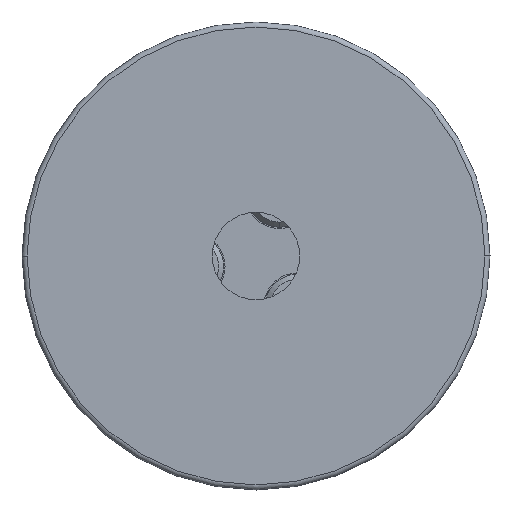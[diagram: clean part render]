
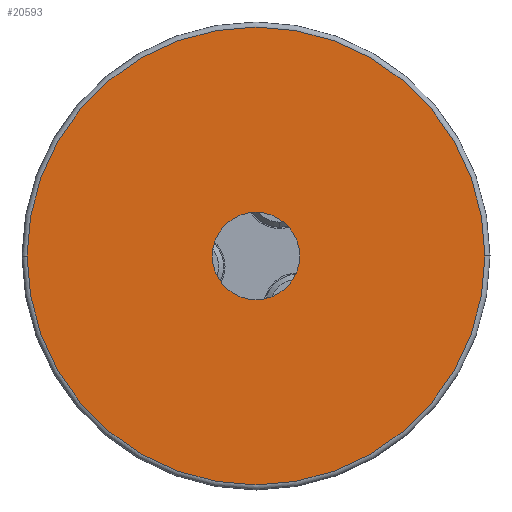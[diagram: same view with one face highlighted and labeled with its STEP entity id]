
A CAD part, front view. The second image highlights one B-rep face of the part: STEP entity #20593.
In plain terms, the highlighted planar face has unit normal (0, -1, 0).
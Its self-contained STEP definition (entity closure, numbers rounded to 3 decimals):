
#474 = VERTEX_POINT ( 'NONE', #17950 ) ;
#1518 = DIRECTION ( 'NONE',  ( -1., 0., 0. ) ) ;
#2802 = FACE_OUTER_BOUND ( 'NONE', #9730, .T. ) ;
#3155 = VERTEX_POINT ( 'NONE', #13838 ) ;
#3231 = FACE_BOUND ( 'NONE', #7847, .T. ) ;
#3757 = DIRECTION ( 'NONE',  ( 0., 1., 0. ) ) ;
#4062 = AXIS2_PLACEMENT_3D ( 'NONE', #6563, #3757, #24813 ) ;
#6117 = AXIS2_PLACEMENT_3D ( 'NONE', #17590, #22595, #30606 ) ;
#6284 = CARTESIAN_POINT ( 'NONE',  ( 12.706, -7.224, 3.715 ) ) ;
#6563 = CARTESIAN_POINT ( 'NONE',  ( -32.834, -7.224, -33.225 ) ) ;
#7847 = EDGE_LOOP ( 'NONE', ( #18759, #22388 ) ) ;
#9530 = CIRCLE ( 'NONE', #22929, 45. ) ;
#9660 = CARTESIAN_POINT ( 'NONE',  ( 12.706, -7.224, 12.315 ) ) ;
#9730 = EDGE_LOOP ( 'NONE', ( #33649, #28364 ) ) ;
#11609 = CIRCLE ( 'NONE', #16967, 45. ) ;
#12476 = DIRECTION ( 'NONE',  ( 0., -1., 0. ) ) ;
#13838 = CARTESIAN_POINT ( 'NONE',  ( -32.294, -7.224, 12.315 ) ) ;
#14035 = DIRECTION ( 'NONE',  ( -1., 0., 0. ) ) ;
#16177 = EDGE_CURVE ( 'NONE', #474, #24606, #24124, .T. ) ;
#16582 = CARTESIAN_POINT ( 'NONE',  ( 12.706, -7.224, 12.315 ) ) ;
#16754 = EDGE_CURVE ( 'NONE', #17850, #3155, #11609, .T. ) ;
#16967 = AXIS2_PLACEMENT_3D ( 'NONE', #9660, #28234, #1518 ) ;
#17590 = CARTESIAN_POINT ( 'NONE',  ( 12.706, -7.224, 12.315 ) ) ;
#17850 = VERTEX_POINT ( 'NONE', #29881 ) ;
#17950 = CARTESIAN_POINT ( 'NONE',  ( 12.706, -7.224, 20.915 ) ) ;
#18759 = ORIENTED_EDGE ( 'NONE', *, *, #25269, .F. ) ;
#19012 = EDGE_CURVE ( 'NONE', #3155, #17850, #9530, .T. ) ;
#19404 = DIRECTION ( 'NONE',  ( 0., 1., 0. ) ) ;
#19705 = PLANE ( 'NONE',  #4062 ) ;
#20593 = ADVANCED_FACE ( 'NONE', ( #3231, #2802 ), #19705, .F. ) ;
#22306 = AXIS2_PLACEMENT_3D ( 'NONE', #33926, #12476, #28505 ) ;
#22388 = ORIENTED_EDGE ( 'NONE', *, *, #16177, .F. ) ;
#22595 = DIRECTION ( 'NONE',  ( 0., -1., 0. ) ) ;
#22929 = AXIS2_PLACEMENT_3D ( 'NONE', #16582, #19404, #14035 ) ;
#23848 = CIRCLE ( 'NONE', #22306, 8.6 ) ;
#24124 = CIRCLE ( 'NONE', #6117, 8.6 ) ;
#24606 = VERTEX_POINT ( 'NONE', #6284 ) ;
#24813 = DIRECTION ( 'NONE',  ( 0., 0., 1. ) ) ;
#25269 = EDGE_CURVE ( 'NONE', #24606, #474, #23848, .T. ) ;
#28234 = DIRECTION ( 'NONE',  ( 0., 1., 0. ) ) ;
#28364 = ORIENTED_EDGE ( 'NONE', *, *, #16754, .F. ) ;
#28505 = DIRECTION ( 'NONE',  ( 0., 0., -1. ) ) ;
#29881 = CARTESIAN_POINT ( 'NONE',  ( 57.706, -7.224, 12.315 ) ) ;
#30606 = DIRECTION ( 'NONE',  ( 0., 0., -1. ) ) ;
#33649 = ORIENTED_EDGE ( 'NONE', *, *, #19012, .F. ) ;
#33926 = CARTESIAN_POINT ( 'NONE',  ( 12.706, -7.224, 12.315 ) ) ;
